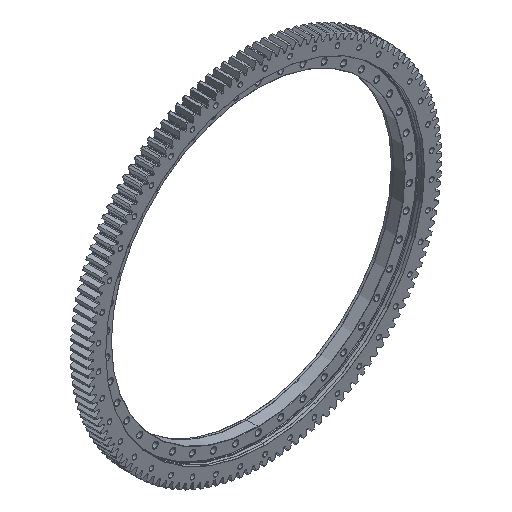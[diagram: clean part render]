
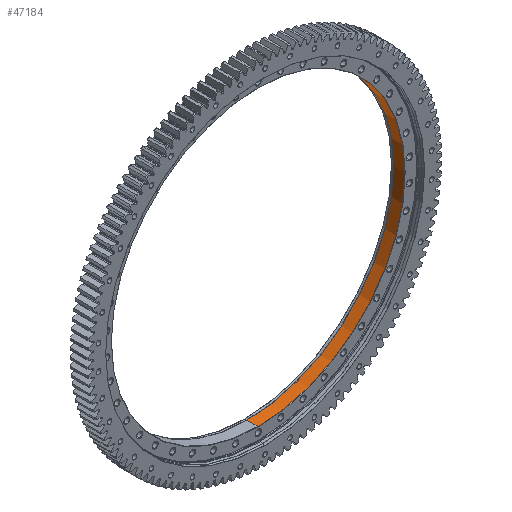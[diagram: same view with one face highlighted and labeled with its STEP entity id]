
A CAD part, isometric view. The second image highlights one B-rep face of the part: STEP entity #47184.
In plain terms, the highlighted cylindrical face has radius 577.5 mm (diameter 1155 mm), a partial arc.
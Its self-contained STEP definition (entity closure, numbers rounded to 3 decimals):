
#1214 = VERTEX_POINT ( 'NONE', #13059 ) ;
#5236 = DIRECTION ( 'NONE',  ( 0., 1., 0. ) ) ;
#7928 = CYLINDRICAL_SURFACE ( 'NONE', #25761, 577.5 ) ;
#8760 = CARTESIAN_POINT ( 'NONE',  ( 577.5, 195.103, 577.5 ) ) ;
#10751 = CARTESIAN_POINT ( 'NONE',  ( 577.5, 1., 0. ) ) ;
#12157 = CARTESIAN_POINT ( 'NONE',  ( 577.5, 45., -577.5 ) ) ;
#12343 = AXIS2_PLACEMENT_3D ( 'NONE', #30009, #5236, #34134 ) ;
#12915 = DIRECTION ( 'NONE',  ( 0., 1., 0. ) ) ;
#13059 = CARTESIAN_POINT ( 'NONE',  ( 577.5, 1., 577.5 ) ) ;
#14708 = VERTEX_POINT ( 'NONE', #12157 ) ;
#14886 = DIRECTION ( 'NONE',  ( 0., 0., 1. ) ) ;
#15188 = LINE ( 'NONE', #18320, #16491 ) ;
#15316 = CARTESIAN_POINT ( 'NONE',  ( 577.5, 195.103, 0. ) ) ;
#16491 = VECTOR ( 'NONE', #22459, 1000. ) ;
#17116 = VERTEX_POINT ( 'NONE', #40041 ) ;
#18320 = CARTESIAN_POINT ( 'NONE',  ( 577.5, 195.103, -577.5 ) ) ;
#20633 = ORIENTED_EDGE ( 'NONE', *, *, #36233, .T. ) ;
#21884 = ORIENTED_EDGE ( 'NONE', *, *, #32198, .F. ) ;
#22459 = DIRECTION ( 'NONE',  ( 0., 1., 0. ) ) ;
#23542 = LINE ( 'NONE', #8760, #31953 ) ;
#23678 = DIRECTION ( 'NONE',  ( 0., 1., 0. ) ) ;
#24895 = ORIENTED_EDGE ( 'NONE', *, *, #37719, .F. ) ;
#25761 = AXIS2_PLACEMENT_3D ( 'NONE', #15316, #23678, #52525 ) ;
#26415 = VERTEX_POINT ( 'NONE', #42741 ) ;
#29031 = CIRCLE ( 'NONE', #29401, 577.5 ) ;
#29401 = AXIS2_PLACEMENT_3D ( 'NONE', #10751, #39616, #14886 ) ;
#30009 = CARTESIAN_POINT ( 'NONE',  ( 577.5, 45., 0. ) ) ;
#31687 = EDGE_LOOP ( 'NONE', ( #21884, #24895, #52689, #20633 ) ) ;
#31953 = VECTOR ( 'NONE', #12915, 1000. ) ;
#32198 = EDGE_CURVE ( 'NONE', #17116, #14708, #15188, .T. ) ;
#34134 = DIRECTION ( 'NONE',  ( 0., 0., 1. ) ) ;
#36233 = EDGE_CURVE ( 'NONE', #26415, #14708, #48483, .T. ) ;
#37719 = EDGE_CURVE ( 'NONE', #1214, #17116, #29031, .T. ) ;
#39616 = DIRECTION ( 'NONE',  ( 0., 1., 0. ) ) ;
#40041 = CARTESIAN_POINT ( 'NONE',  ( 577.5, 1., -577.5 ) ) ;
#40865 = FACE_OUTER_BOUND ( 'NONE', #31687, .T. ) ;
#42741 = CARTESIAN_POINT ( 'NONE',  ( 577.5, 45., 577.5 ) ) ;
#46374 = EDGE_CURVE ( 'NONE', #1214, #26415, #23542, .T. ) ;
#47184 = ADVANCED_FACE ( 'NONE', ( #40865 ), #7928, .F. ) ;
#48483 = CIRCLE ( 'NONE', #12343, 577.5 ) ;
#52525 = DIRECTION ( 'NONE',  ( 0., 0., 1. ) ) ;
#52689 = ORIENTED_EDGE ( 'NONE', *, *, #46374, .T. ) ;
